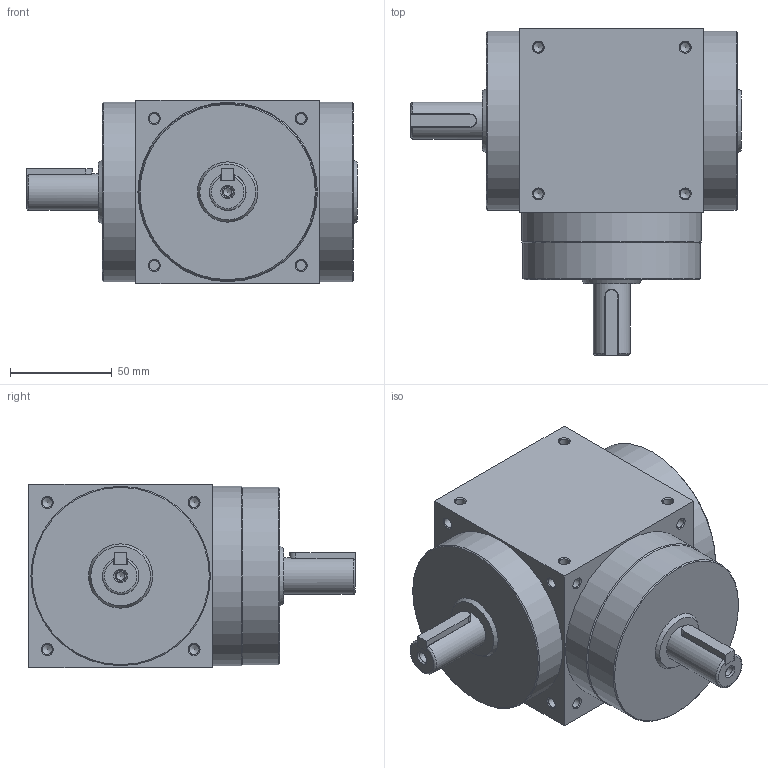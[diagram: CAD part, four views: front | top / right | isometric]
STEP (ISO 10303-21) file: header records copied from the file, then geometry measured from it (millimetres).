
FILE_DESCRIPTION((''),'2;1');
FILE_NAME('D:\유성\SBT 베벨기어박스\최종도면모음\3D\SBT090\SBT090LS001K.stp','2014-05-20T10:33:22',('nagyu'),(''),'Autodesk Inventor 2013','Autodesk Inventor 2013','');
FILE_SCHEMA(('AUTOMOTIVE_DESIGN { 1 0 10303 214 1 1 1 1 }'));
Length unit declared in the file: millimetre
Products named in the file (1): SBT090LS001K_Shrinkwrap_1
Bounding box: 162 x 160 x 90 mm (x, y, z)
Volume: 1144868.8 mm3; surface area: 75116.8 mm2
Topology: 1 solids, 1 shells, 173 faces, 488 edges, 299 vertices
Faces by surface type: cylinder 62, cone 59, plane 40, bspline 10, torus 2
Full cylindrical faces by diameter (mm): 4.134 x2, 4.917 x48, 5.5 x2, 6 x2, 18 x2, 87 x1, 88 x3
Entity records: 4950 total; most frequent: CARTESIAN_POINT 1264, DIRECTION 818, ORIENTED_EDGE 602, AXIS2_PLACEMENT_3D 373, EDGE_LOOP 306, EDGE_CURVE 301, VERTEX_POINT 231, FACE_OUTER_BOUND 173
